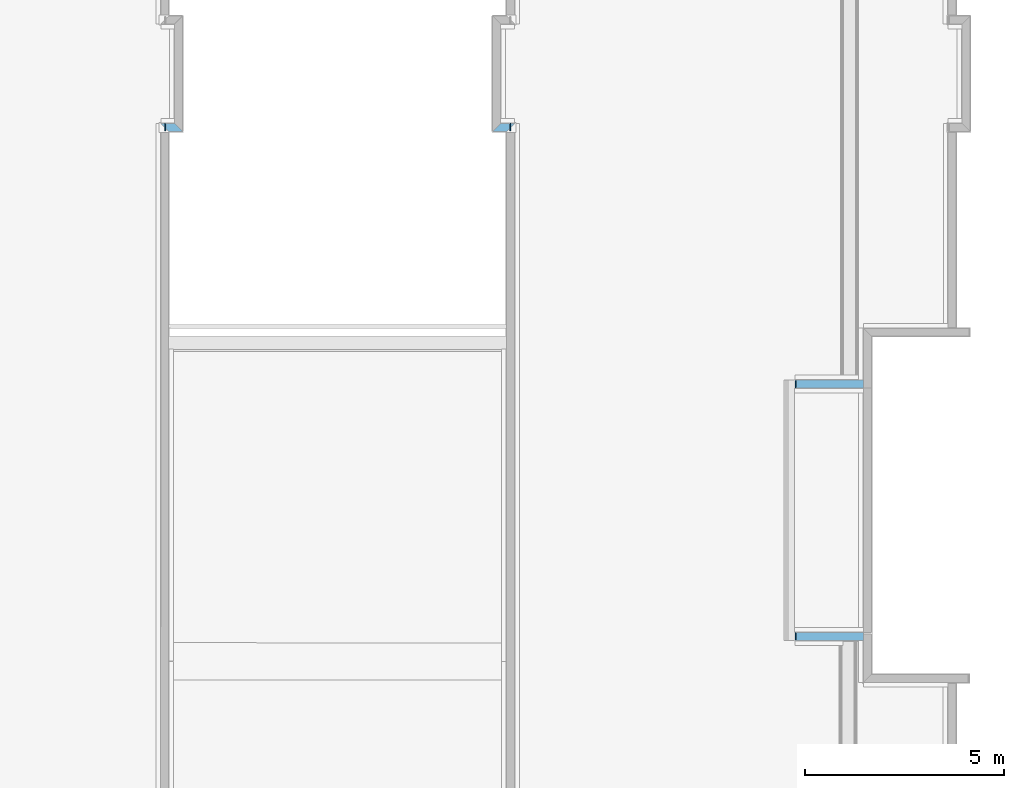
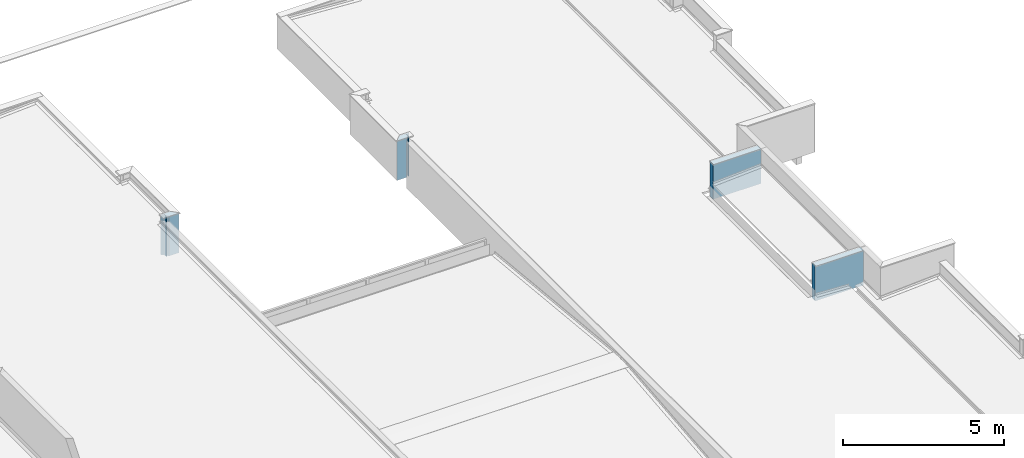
# One storey, part 17 of 25: 4 walls, 4 openings, plus 4 elements that do not belong to this part.
"""IFC4 building model written with IfcOpenShell, lengths in metres."""

from ifc_helpers import new_model, entity, si_unit, converted_unit, derived_unit, direction, frame, origin_with_axes, origin_2d_with_axis, place, context, subcontext, project, spatial, line, indexed_curve, rectangle, outline, extrude, polygons, material, layer, layer_set, layer_usage, constituent, constituent_set, type_object, element, fill, save


model = new_model("IFC4")

# Units and contexts
model_context = context("Model", 3, precision=1e-05, world=origin_with_axes(), true_north=direction((0.0, 1.0)))
body_context = subcontext(model_context, "Body", "Model", "MODEL_VIEW")
ifc_project = project(units=[si_unit("LENGTHUNIT", "METRE"), si_unit("AREAUNIT", "SQUARE_METRE"), si_unit("VOLUMEUNIT", "CUBIC_METRE"), converted_unit("PLANEANGLEUNIT", "DEGREE", entity("IfcPlaneAngleMeasure", 0.0174532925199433), si_unit("PLANEANGLEUNIT", "RADIAN"), dimensions=[0, 0, 0, 0, 0, 0, 0]), converted_unit("TIMEUNIT", "Year", entity("IfcTimeMeasure", 31557600.0), si_unit("TIMEUNIT", "SECOND"), dimensions=[0, 0, 1, 0, 0, 0, 0]), si_unit("MASSUNIT", "GRAM", prefix="KILO"), si_unit("THERMODYNAMICTEMPERATUREUNIT", "DEGREE_CELSIUS"), si_unit("LUMINOUSINTENSITYUNIT", "LUMEN"), si_unit("ENERGYUNIT", "JOULE", prefix="MEGA"), derived_unit("THERMALCONDUCTANCEUNIT", [(si_unit("POWERUNIT", "WATT"), 1), (si_unit("LENGTHUNIT", "METRE"), -1), (si_unit("THERMODYNAMICTEMPERATUREUNIT", "KELVIN"), -1)]), derived_unit("SPECIFICHEATCAPACITYUNIT", [(si_unit("ENERGYUNIT", "JOULE"), 1), (si_unit("MASSUNIT", "GRAM", prefix="KILO"), -1), (si_unit("THERMODYNAMICTEMPERATUREUNIT", "KELVIN"), -1)]), derived_unit("MASSDENSITYUNIT", [(si_unit("MASSUNIT", "GRAM", prefix="KILO"), 1), (si_unit("VOLUMEUNIT", "CUBIC_METRE"), -1)])], contexts=[model_context])

# Site, building, storey
site_placement = place(None, origin_with_axes())
site = spatial("IfcSite", under=ifc_project, at=site_placement, Name="PADRÃO", CompositionType="ELEMENT")
building_placement = place(site_placement, origin_with_axes())
building = spatial("IfcBuilding", under=site, at=building_placement, Name="CRECHE PRÉ-ESCOLA TIPO 2", CompositionType="ELEMENT")
storey_placement = place(building_placement, frame((0.0, 0.0, 3.26), z_axis=(0.0, 0.0, 1.0), x_axis=(1.0, 0.0, 0.0)))
storey = spatial("IfcBuildingStorey", under=building, at=storey_placement, Name="COBERTURA", CompositionType="ELEMENT", Elevation=3.26)

# Walls, opening
ifc_material_1 = material(Name="EI-REV-Pintura Acrílica Cor Branco Gelo")
ifc_layer_1 = layer(ifc_material_1, 0.015, ventilated="UNKNOWN", Name="EI-REV-Pintura Acrílica Cor Branco Gelo 1")
ifc_material_2 = material(Name="EI-REV-Massa Acrílica (externa)")
ifc_layer_2 = layer(ifc_material_2, 0.005, ventilated="UNKNOWN", Name="EI-REV-Massa Acrílica (externa) 1")
ifc_material_3 = material(Name="EI-REV-Massa única - Fachada")
ifc_layer_3 = layer(ifc_material_3, 0.005, ventilated="UNKNOWN", Name="EI-REV-Massa única - Fachada 1")
ifc_material_4 = material(Name="EI-REV-Chapisco (externo)")
ifc_layer_4 = layer(ifc_material_4, 0.005, ventilated="UNKNOWN", Name="EI-REV-Chapisco (externo) 1")
ifc_material_5 = material(Name="TIJOLO - CERAMICO 14x19x39 - espessura 20cm")
ifc_layer_5 = layer(ifc_material_5, 0.14, ventilated="UNKNOWN", Name="TIJOLO - CERAMICO 14x19x39 - espessura 20cm")
ifc_layer_6 = layer(ifc_material_4, 0.005, ventilated="UNKNOWN", Name="EI-REV-Chapisco (externo) 2")
ifc_layer_7 = layer(ifc_material_3, 0.005, ventilated="UNKNOWN", Name="EI-REV-Massa única - Fachada 2")
ifc_layer_8 = layer(ifc_material_2, 0.005, ventilated="UNKNOWN", Name="EI-REV-Massa Acrílica (externa) 2")
ifc_layer_9 = layer(ifc_material_1, 0.015, ventilated="UNKNOWN", Name="EI-REV-Pintura Acrílica Cor Branco Gelo 2")
ifc_layer_set = layer_set([ifc_layer_1, ifc_layer_2, ifc_layer_3, ifc_layer_4, ifc_layer_5, ifc_layer_6, ifc_layer_7, ifc_layer_8, ifc_layer_9], Name="FNDE-PLAT_AL14-Pintura Branca")
ifc_layer_usage_1 = layer_usage(ifc_layer_set, "AXIS2", "NEGATIVE", 0.1)
wall_type_1 = type_object("IfcWallType", Name="FNDE-PLAT_AL14-Pintura Branca 200", PredefinedType="NOTDEFINED")
wall_1_placement = place(storey_placement, frame((-8.47005175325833, 25.5501560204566, 0.54000000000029), z_axis=(0.0, 0.0, 1.0), x_axis=(-1.0, 0.0, 0.0)))
wall_1 = element("IfcWall", 1, at=wall_1_placement, inside=storey, type_object=wall_type_1, material=ifc_layer_usage_1, Name="AL14", PredefinedType="NOTDEFINED", context=body_context, shape_type="SweptSolid", body=[
    extrude(outline(indexed_curve([(0.100000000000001, -0.100000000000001), (1.81996619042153, -0.100000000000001), (1.81996619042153, 0.0999999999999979), (0.100000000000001, 0.0999999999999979)], segments=[line(1, 2, 3, 4, 1)])), origin_with_axes(), (0.0, 0.0, 1.0), 1.32),
])
opening_1_placement = place(wall_1_placement, frame((1.81996619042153, 0.0, 0.0), z_axis=(0.0, 0.0, 1.0), x_axis=(1.0, 0.0, 0.0)))
opening_1 = element("IfcOpeningElement", 2, at=opening_1_placement, cuts=wall_1, Name="AL09", ObjectType="Recess", context=body_context, shape_type="SweptSolid", body=[
    extrude(rectangle(XDim=0.184999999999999, YDim=0.0150000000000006, at=origin_2d_with_axis()), frame((-0.00750000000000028, 0.00750000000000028, 0.0), z_axis=(0.0, 0.0, 1.0), x_axis=(0.0, -1.0, 0.0)), (0.0, 0.0, 1.0), 1.32),
    extrude(rectangle(XDim=0.169999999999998, YDim=0.00499999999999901, at=origin_2d_with_axis()), frame((-0.0174999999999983, 0.0, 0.0), z_axis=(0.0, 0.0, 1.0), x_axis=(0.0, -1.0, 0.0)), (0.0, 0.0, 1.0), 1.32),
    extrude(rectangle(XDim=0.164999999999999, YDim=0.00499999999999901, at=origin_2d_with_axis()), frame((-0.0225000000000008, -0.00250000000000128, 0.0), z_axis=(0.0, 0.0, 1.0), x_axis=(0.0, -1.0, 0.0)), (0.0, 0.0, 1.0), 1.32),
])
ifc_constituent_1 = constituent(ifc_material_1, Name="EI-REV-Pintura Acrílica Cor Branco Gelo")
ifc_constituent_2 = constituent(ifc_material_2, Name="EI-REV-Massa Acrílica (externa)")
ifc_constituent_3 = constituent(ifc_material_3, Name="EI-REV-Massa única - Fachada")
ifc_constituent_set_1 = constituent_set(constituents=[ifc_constituent_1, ifc_constituent_2, ifc_constituent_3])
wall_type_2 = type_object("IfcWallType", Name="Arremate com Dobra Revest 27", PredefinedType="NOTDEFINED")
wall_2_placement = place(opening_1_placement, frame((-0.0124999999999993, 0.0, 0.0), z_axis=(0.0, 0.0, 1.0), x_axis=(1.0, 0.0, 0.0)))
wall_2 = element("IfcWall", 3, at=wall_2_placement, inside=storey, type_object=wall_type_2, material=ifc_constituent_set_1, Name="AL09", PredefinedType="NOTDEFINED", context=body_context, shape_type="Tessellation", body=[
    polygons([(0.0124999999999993, 0.0999999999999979, 0.0), (-0.00250000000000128, 0.0999999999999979, 0.0), (-0.00250000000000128, 0.0999999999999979, 1.32), (0.0124999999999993, 0.0999999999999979, 1.32), (0.0124999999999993, -0.0850000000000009, 0.0), (-0.00250000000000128, -0.0850000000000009, 0.0), (-0.00250000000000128, -0.0850000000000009, 1.32), (0.0124999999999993, -0.0850000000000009, 1.32)], [[[1, 2, 3, 4]], [[5, 6, 2, 1]], [[6, 7, 3, 2]], [[7, 8, 4, 3]], [[8, 5, 1, 4]], [[5, 8, 7, 6]]], closed=True),
    polygons([(-0.00250000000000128, 0.0849999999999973, 0.0), (-0.00750000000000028, 0.0849999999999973, 0.0), (-0.00750000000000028, 0.0849999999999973, 1.32), (-0.00250000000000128, 0.0849999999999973, 1.32), (-0.00250000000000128, -0.0850000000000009, 0.0), (-0.00750000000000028, -0.0850000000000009, 0.0), (-0.00750000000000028, -0.0850000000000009, 1.32), (-0.00250000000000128, -0.0850000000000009, 1.32)], [[[1, 2, 3, 4]], [[5, 6, 2, 1]], [[6, 7, 3, 2]], [[7, 8, 4, 3]], [[8, 5, 1, 4]], [[5, 8, 7, 6]]], closed=True),
    polygons([(-0.00750000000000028, 0.0799999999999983, 0.0), (-0.0124999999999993, 0.0799999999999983, 0.0), (-0.0124999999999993, 0.0799999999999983, 1.32), (-0.00750000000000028, 0.0799999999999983, 1.32), (-0.00750000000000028, -0.0850000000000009, 0.0), (-0.0124999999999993, -0.0850000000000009, 0.0), (-0.0124999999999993, -0.0850000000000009, 1.32), (-0.00750000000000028, -0.0850000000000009, 1.32)], [[[1, 2, 3, 4]], [[5, 6, 2, 1]], [[6, 7, 3, 2]], [[7, 8, 4, 3]], [[8, 5, 1, 4]], [[5, 8, 7, 6]]], closed=True),
])
fill(opening_1, wall_2)

ifc_layer_usage_2 = layer_usage(ifc_layer_set, "AXIS2", "NEGATIVE", 0.1)
wall_3_placement = place(storey_placement, frame((-10.290017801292, 19.2001560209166, 0.540000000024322), z_axis=(0.0, 0.0, 1.0), x_axis=(1.0, 0.0, 0.0)))
wall_3 = element("IfcWall", 4, at=wall_3_placement, inside=storey, type_object=wall_type_1, material=ifc_layer_usage_2, Name="AL14", PredefinedType="NOTDEFINED", context=body_context, shape_type="SweptSolid", body=[
    extrude(outline(indexed_curve([(0.0, -0.100000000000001), (1.71996604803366, -0.100000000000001), (1.71996604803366, 0.0999999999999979), (0.0, 0.0999999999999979)], segments=[line(1, 2, 3, 4, 1)])), origin_with_axes(), (0.0, 0.0, 1.0), 1.32),
])
opening_2_placement = place(wall_3_placement, origin_with_axes())
opening_2 = element("IfcOpeningElement", 5, at=opening_2_placement, cuts=wall_3, Name="AL09", ObjectType="Recess", context=body_context, shape_type="SweptSolid", body=[
    extrude(rectangle(XDim=0.184999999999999, YDim=0.0150000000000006, at=origin_2d_with_axis()), frame((0.00750000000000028, 0.00749999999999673, 0.0), z_axis=(0.0, 0.0, 1.0), x_axis=(0.0, 1.0, 0.0)), (0.0, 0.0, 1.0), 1.32),
    extrude(rectangle(XDim=0.169999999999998, YDim=0.00499999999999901, at=origin_2d_with_axis()), frame((0.0174999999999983, 0.0, 0.0), z_axis=(0.0, 0.0, 1.0), x_axis=(0.0, 1.0, 0.0)), (0.0, 0.0, 1.0), 1.32),
    extrude(rectangle(XDim=0.164999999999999, YDim=0.00499999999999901, at=origin_2d_with_axis()), frame((0.0225000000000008, -0.00250000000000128, 0.0), z_axis=(0.0, 0.0, 1.0), x_axis=(0.0, 1.0, 0.0)), (0.0, 0.0, 1.0), 1.32),
])
ifc_constituent_4 = constituent(ifc_material_1, Name="EI-REV-Pintura Acrílica Cor Branco Gelo")
ifc_constituent_5 = constituent(ifc_material_2, Name="EI-REV-Massa Acrílica (externa)")
ifc_constituent_6 = constituent(ifc_material_3, Name="EI-REV-Massa única - Fachada")
ifc_constituent_set_2 = constituent_set(constituents=[ifc_constituent_4, ifc_constituent_5, ifc_constituent_6])
wall_4_placement = place(opening_2_placement, frame((0.0124999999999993, 0.0, 0.0), z_axis=(0.0, 0.0, 1.0), x_axis=(-1.0, 0.0, 0.0)))
wall_4 = element("IfcWall", 6, at=wall_4_placement, inside=storey, type_object=wall_type_2, material=ifc_constituent_set_2, Name="AL09", PredefinedType="NOTDEFINED", context=body_context, shape_type="Tessellation", body=[
    polygons([(0.0124999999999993, 0.0850000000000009, 0.0), (-0.00250000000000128, 0.0850000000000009, 0.0), (-0.00250000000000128, 0.0850000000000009, 1.32), (0.0124999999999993, 0.0850000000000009, 1.32), (0.0124999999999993, -0.0999999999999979, 0.0), (-0.00250000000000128, -0.0999999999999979, 0.0), (-0.00250000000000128, -0.0999999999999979, 1.32), (0.0124999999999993, -0.0999999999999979, 1.32)], [[[1, 2, 3, 4]], [[5, 6, 2, 1]], [[6, 7, 3, 2]], [[7, 8, 4, 3]], [[8, 5, 1, 4]], [[5, 8, 7, 6]]], closed=True),
    polygons([(-0.00250000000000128, 0.0850000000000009, 0.0), (-0.00750000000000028, 0.0850000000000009, 0.0), (-0.00750000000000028, 0.0850000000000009, 1.32), (-0.00250000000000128, 0.0850000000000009, 1.32), (-0.00250000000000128, -0.0849999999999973, 0.0), (-0.00750000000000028, -0.0849999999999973, 0.0), (-0.00750000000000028, -0.0849999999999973, 1.32), (-0.00250000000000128, -0.0849999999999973, 1.32)], [[[1, 2, 3, 4]], [[5, 6, 2, 1]], [[6, 7, 3, 2]], [[7, 8, 4, 3]], [[8, 5, 1, 4]], [[5, 8, 7, 6]]], closed=True),
    polygons([(-0.00750000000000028, 0.0850000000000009, 0.0), (-0.0124999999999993, 0.0850000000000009, 0.0), (-0.0124999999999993, 0.0850000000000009, 1.32), (-0.00750000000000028, 0.0850000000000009, 1.32), (-0.00750000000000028, -0.0799999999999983, 0.0), (-0.0124999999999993, -0.0799999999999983, 0.0), (-0.0124999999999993, -0.0799999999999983, 1.32), (-0.00750000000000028, -0.0799999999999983, 1.32)], [[[1, 2, 3, 4]], [[5, 6, 2, 1]], [[6, 7, 3, 2]], [[7, 8, 4, 3]], [[8, 5, 1, 4]], [[5, 8, 7, 6]]], closed=True),
])
fill(opening_2, wall_4)

ifc_layer_usage_3 = layer_usage(ifc_layer_set, "AXIS2", "NEGATIVE", 0.1)
wall_5_placement = place(storey_placement, frame((-17.4400505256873, 32.0001883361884, 0.0), z_axis=(0.0, 0.0, 1.0), x_axis=(-0.999999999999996, 8.87479161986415e-08, 0.0)))
wall_5 = element("IfcWall", 7, at=wall_5_placement, inside=storey, type_object=wall_type_1, material=ifc_layer_usage_3, Name="AL14", PredefinedType="NOTDEFINED", context=body_context, shape_type="SweptSolid", body=[
    extrude(outline(indexed_curve([(-0.0999999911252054, -0.100000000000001), (0.249961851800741, -0.100000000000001), (0.449961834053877, 0.0999999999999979), (0.0999999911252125, 0.0999999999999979)], segments=[line(1, 2, 3, 4, 1)])), origin_with_axes(), (0.0, 0.0, 1.0), 1.51),
])
opening_3_placement = place(wall_5_placement, origin_with_axes())
opening_3 = element("IfcOpeningElement", 8, at=opening_3_placement, cuts=wall_5, Name="AL14", ObjectType="Recess", context=body_context, shape_type="Tessellation", body=[
    polygons([(0.0199999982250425, -0.0799999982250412, 0.0), (0.0199999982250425, -0.0799999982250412, 1.51), (0.01999999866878, -0.0849999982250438, 1.51), (0.01999999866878, -0.0849999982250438, 0.0), (0.0249999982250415, -0.0799999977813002, 0.0), (0.0249999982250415, -0.0799999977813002, 1.51), (-8.87478890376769e-09, -8.87479956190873e-09, 1.51), (0.0, -0.100000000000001, 1.51), (0.0150000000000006, -0.0999999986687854, 1.51), (0.014999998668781, -0.0849999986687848, 1.51), (0.0249999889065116, 0.0249999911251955, 1.51), (0.014999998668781, -0.0849999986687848, 0.0), (0.0150000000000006, -0.0999999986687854, 0.0), (0.0, -0.100000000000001, 0.0), (-8.87478890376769e-09, -8.87479956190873e-09, 0.0), (0.0249999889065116, 0.0249999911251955, 0.0)], [[[1, 2, 3, 4]], [[2, 1, 5, 6]], [[7, 8, 9, 10, 3, 2, 6, 11]], [[10, 12, 4, 3]], [[1, 4, 12, 13, 14, 15, 16, 5]], [[11, 6, 5, 16]], [[8, 7, 15, 14]], [[9, 8, 14, 13]], [[12, 10, 9, 13]], [[11, 16, 15, 7]]], closed=True),
])
ifc_constituent_7 = constituent(ifc_material_1, Name="EI-REV-Pintura Acrílica Cor Branco Gelo")
ifc_constituent_8 = constituent(ifc_material_2, Name="EI-REV-Massa Acrílica (externa)")
ifc_constituent_9 = constituent(ifc_material_3, Name="EI-REV-Massa única - Fachada")
ifc_constituent_set_3 = constituent_set(constituents=[ifc_constituent_7, ifc_constituent_8, ifc_constituent_9])
wall_6_placement = place(opening_3_placement, frame((-0.0124999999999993, 0.0, 0.0), z_axis=(0.0, 0.0, 1.0), x_axis=(1.0, 0.0, 0.0)))
wall_6 = element("IfcWall", 9, at=wall_6_placement, inside=storey, type_object=wall_type_2, material=ifc_constituent_set_3, Name="AL14", PredefinedType="NOTDEFINED", context=body_context, shape_type="Tessellation", body=[
    polygons([(0.0124999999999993, -0.100000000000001, 0.0), (0.0274999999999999, -0.0999999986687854, 0.0), (0.0274999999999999, -0.0999999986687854, 1.51), (0.0124999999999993, -0.100000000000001, 1.51), (0.012499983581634, 0.0849999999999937, 0.0), (0.0274999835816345, 0.0850000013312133, 0.0), (0.0274999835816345, 0.0850000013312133, 1.51), (0.012499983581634, 0.0849999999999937, 1.51)], [[[1, 2, 3, 4]], [[5, 6, 2, 1]], [[6, 7, 3, 2]], [[7, 8, 4, 3]], [[8, 5, 1, 4]], [[5, 8, 7, 6]]], closed=True),
    polygons([(0.0274999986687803, -0.0849999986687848, 0.0), (0.0324999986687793, -0.0849999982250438, 0.0), (0.0324999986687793, -0.0849999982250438, 1.51), (0.0274999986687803, -0.0849999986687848, 1.51), (0.0274999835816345, 0.0850000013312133, 0.0), (0.0324999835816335, 0.0850000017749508, 0.0), (0.0324999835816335, 0.0850000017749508, 1.51), (0.0274999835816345, 0.0850000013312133, 1.51)], [[[1, 2, 3, 4]], [[5, 6, 2, 1]], [[6, 7, 3, 2]], [[7, 8, 4, 3]], [[8, 5, 1, 4]], [[5, 8, 7, 6]]], closed=True),
    polygons([(0.0324999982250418, -0.0799999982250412, 0.0), (0.0374999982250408, -0.0799999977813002, 0.0), (0.0374999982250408, -0.0799999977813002, 1.51), (0.0324999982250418, -0.0799999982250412, 1.51), (0.0324999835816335, 0.0850000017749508, 0.0), (0.0374999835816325, 0.0850000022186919, 0.0), (0.0374999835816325, 0.0850000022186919, 1.51), (0.0324999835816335, 0.0850000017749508, 1.51)], [[[1, 2, 3, 4]], [[5, 6, 2, 1]], [[6, 7, 3, 2]], [[7, 8, 4, 3]], [[8, 5, 1, 4]], [[5, 8, 7, 6]]], closed=True),
])
fill(opening_3, wall_6)

ifc_layer_usage_4 = layer_usage(ifc_layer_set, "AXIS2", "POSITIVE", -0.1)
wall_7_placement = place(storey_placement, frame((-26.1400963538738, 32.000188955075, 0.0), z_axis=(0.0, 0.0, 1.0), x_axis=(0.999999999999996, 8.87208056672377e-08, 0.0)))
wall_7 = element("IfcWall", 10, at=wall_7_placement, inside=storey, type_object=wall_type_1, material=ifc_layer_usage_4, Name="AL14", PredefinedType="NOTDEFINED", context=body_context, shape_type="SweptSolid", body=[
    extrude(outline(indexed_curve([(0.0999999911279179, -0.0999999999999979), (0.450568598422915, -0.0999999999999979), (0.250568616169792, 0.100000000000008), (-0.0999999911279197, 0.100000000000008)], segments=[line(1, 2, 3, 4, 1)])), origin_with_axes(), (0.0, 0.0, 1.0), 1.51),
])
opening_4_placement = place(wall_7_placement, origin_with_axes())
opening_4 = element("IfcOpeningElement", 11, at=opening_4_placement, cuts=wall_7, Name="AL14", ObjectType="Recess", context=body_context, shape_type="Tessellation", body=[
    polygons([(0.0200000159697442, 0.0799999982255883, 1.51), (0.0200000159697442, 0.0799999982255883, 0.0), (0.0200000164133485, 0.0849999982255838, 0.0), (0.0200000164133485, 0.0849999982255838, 1.51), (0.025000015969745, 0.0799999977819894, 1.51), (0.025000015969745, 0.0799999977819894, 0.0), (8.87207818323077e-09, -8.87208528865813e-09, 0.0), (1.77441599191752e-08, 0.100000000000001, 0.0), (0.0150000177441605, 0.0999999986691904, 0.0), (0.0150000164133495, 0.0849999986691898, 0.0), (0.025000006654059, -0.0250000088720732, 0.0), (0.0150000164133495, 0.0849999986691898, 1.51), (0.0150000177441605, 0.0999999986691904, 1.51), (1.77441599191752e-08, 0.100000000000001, 1.51), (8.87207818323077e-09, -8.87208528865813e-09, 1.51), (0.025000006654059, -0.0250000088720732, 1.51)], [[[1, 2, 3, 4]], [[2, 1, 5, 6]], [[7, 8, 9, 10, 3, 2, 6, 11]], [[10, 12, 4, 3]], [[1, 4, 12, 13, 14, 15, 16, 5]], [[5, 16, 11, 6]], [[15, 14, 8, 7]], [[14, 13, 9, 8]], [[12, 10, 9, 13]], [[7, 11, 16, 15]]], closed=True),
])
ifc_constituent_10 = constituent(ifc_material_1, Name="EI-REV-Pintura Acrílica Cor Branco Gelo")
ifc_constituent_11 = constituent(ifc_material_2, Name="EI-REV-Massa Acrílica (externa)")
ifc_constituent_12 = constituent(ifc_material_3, Name="EI-REV-Massa única - Fachada")
ifc_constituent_set_4 = constituent_set(constituents=[ifc_constituent_10, ifc_constituent_11, ifc_constituent_12])
wall_8_placement = place(opening_4_placement, frame((0.0124999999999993, 0.0, 0.0), z_axis=(0.0, 0.0, 1.0), x_axis=(-1.0, 0.0, 0.0)))
wall_8 = element("IfcWall", 12, at=wall_8_placement, inside=storey, type_object=wall_type_2, material=ifc_constituent_set_4, Name="AL14", PredefinedType="NOTDEFINED", context=body_context, shape_type="Tessellation", body=[
    polygons([(0.0124999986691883, 0.0849999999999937, 0.0), (-0.0025000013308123, 0.0850000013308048, 0.0), (-0.0025000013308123, 0.0850000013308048, 1.51), (0.0124999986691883, 0.0849999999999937, 1.51), (0.0124999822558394, -0.100000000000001, 0.0), (-0.0025000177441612, -0.0999999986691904, 0.0), (-0.0025000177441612, -0.0999999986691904, 1.51), (0.0124999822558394, -0.100000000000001, 1.51)], [[[1, 2, 3, 4]], [[5, 6, 2, 1]], [[6, 7, 3, 2]], [[7, 8, 4, 3]], [[8, 5, 1, 4]], [[5, 8, 7, 6]]], closed=True),
    polygons([(-0.0025000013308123, 0.0850000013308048, 0.0), (-0.0075000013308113, 0.0850000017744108, 0.0), (-0.0075000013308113, 0.0850000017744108, 1.51), (-0.0025000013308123, 0.0850000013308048, 1.51), (-0.00250001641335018, -0.0849999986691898, 0.0), (-0.00750001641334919, -0.0849999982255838, 0.0), (-0.00750001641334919, -0.0849999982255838, 1.51), (-0.00250001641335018, -0.0849999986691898, 1.51)], [[[1, 2, 3, 4]], [[5, 6, 2, 1]], [[6, 7, 3, 2]], [[7, 8, 4, 3]], [[8, 5, 1, 4]], [[5, 8, 7, 6]]], closed=True),
    polygons([(-0.0075000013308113, 0.0850000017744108, 0.0), (-0.0125000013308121, 0.0850000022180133, 0.0), (-0.0125000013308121, 0.0850000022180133, 1.51), (-0.0075000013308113, 0.0850000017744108, 1.51), (-0.00750001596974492, -0.0799999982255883, 0.0), (-0.0125000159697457, -0.0799999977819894, 0.0), (-0.0125000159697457, -0.0799999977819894, 1.51), (-0.00750001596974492, -0.0799999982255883, 1.51)], [[[1, 2, 3, 4]], [[5, 6, 2, 1]], [[6, 7, 3, 2]], [[7, 8, 4, 3]], [[8, 5, 1, 4]], [[5, 8, 7, 6]]], closed=True),
])
fill(opening_4, wall_8)

save(model, "model.ifc")
